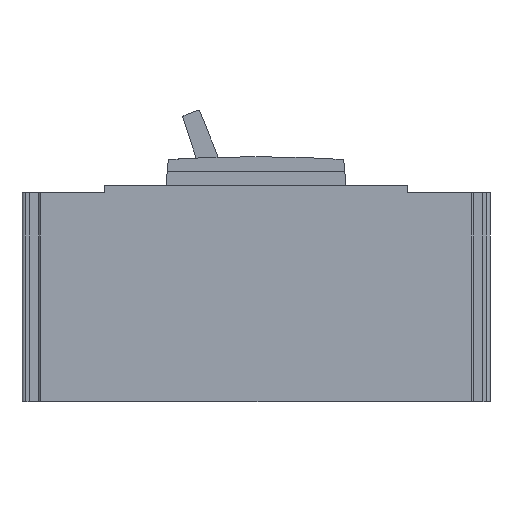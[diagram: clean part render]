
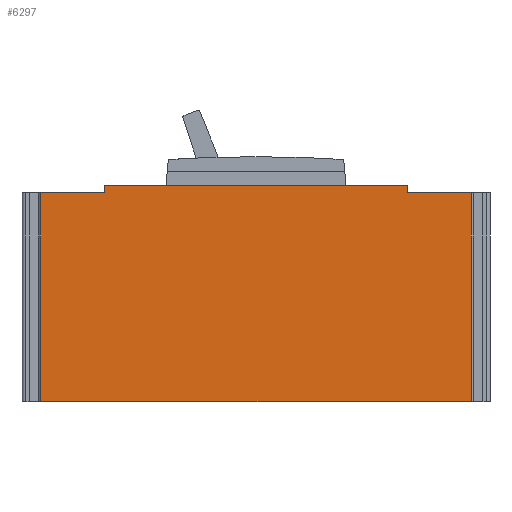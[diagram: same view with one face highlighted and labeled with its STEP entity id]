
A CAD part, left-side view. The second image highlights one B-rep face of the part: STEP entity #6297.
In plain terms, the highlighted planar face has unit normal (-1, 0, 0).
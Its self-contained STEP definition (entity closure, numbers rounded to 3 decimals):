
#181 = DIRECTION ( 'NONE',  ( 0., 0., -1. ) ) ;
#879 = LINE ( 'NONE', #6603, #5187 ) ;
#1034 = LINE ( 'NONE', #2361, #1117 ) ;
#1117 = VECTOR ( 'NONE', #5015, 1000. ) ;
#1172 = ORIENTED_EDGE ( 'NONE', *, *, #2059, .F. ) ;
#1199 = CARTESIAN_POINT ( 'NONE',  ( -37.3, 59.8, 58. ) ) ;
#1326 = EDGE_CURVE ( 'NONE', #1357, #2079, #7013, .T. ) ;
#1357 = VERTEX_POINT ( 'NONE', #1199 ) ;
#1416 = LINE ( 'NONE', #2886, #6997 ) ;
#1489 = CARTESIAN_POINT ( 'NONE',  ( -37.3, 0., 0. ) ) ;
#1613 = CARTESIAN_POINT ( 'NONE',  ( -37.3, -42., 58. ) ) ;
#1623 = VECTOR ( 'NONE', #1723, 1000. ) ;
#1668 = DIRECTION ( 'NONE',  ( 0., -1., 0. ) ) ;
#1675 = CARTESIAN_POINT ( 'NONE',  ( -37.3, -59.8, 58. ) ) ;
#1723 = DIRECTION ( 'NONE',  ( 0., 0., 1. ) ) ;
#1883 = FACE_OUTER_BOUND ( 'NONE', #3726, .T. ) ;
#2059 = EDGE_CURVE ( 'NONE', #6474, #3492, #3995, .T. ) ;
#2079 = VERTEX_POINT ( 'NONE', #3961 ) ;
#2223 = VECTOR ( 'NONE', #2385, 1000. ) ;
#2247 = CARTESIAN_POINT ( 'NONE',  ( -37.3, 42., 60. ) ) ;
#2294 = ORIENTED_EDGE ( 'NONE', *, *, #2553, .F. ) ;
#2301 = CARTESIAN_POINT ( 'NONE',  ( -37.3, -42., 0. ) ) ;
#2361 = CARTESIAN_POINT ( 'NONE',  ( -37.3, 0., 58. ) ) ;
#2385 = DIRECTION ( 'NONE',  ( 0., 0., -1. ) ) ;
#2553 = EDGE_CURVE ( 'NONE', #6840, #5585, #6943, .T. ) ;
#2638 = EDGE_CURVE ( 'NONE', #3492, #5484, #1034, .T. ) ;
#2705 = LINE ( 'NONE', #4407, #5329 ) ;
#2740 = DIRECTION ( 'NONE',  ( 0., -1., 0. ) ) ;
#2776 = ORIENTED_EDGE ( 'NONE', *, *, #6978, .F. ) ;
#2811 = CARTESIAN_POINT ( 'NONE',  ( -37.3, -42., 60. ) ) ;
#2886 = CARTESIAN_POINT ( 'NONE',  ( -37.3, 0., 60. ) ) ;
#3146 = AXIS2_PLACEMENT_3D ( 'NONE', #4188, #6315, #5300 ) ;
#3195 = CARTESIAN_POINT ( 'NONE',  ( -37.3, 42., 58. ) ) ;
#3248 = CARTESIAN_POINT ( 'NONE',  ( -37.3, -59.8, 0. ) ) ;
#3451 = VERTEX_POINT ( 'NONE', #3248 ) ;
#3492 = VERTEX_POINT ( 'NONE', #1613 ) ;
#3726 = EDGE_LOOP ( 'NONE', ( #6867, #6845, #5642, #5438, #6279, #1172, #4535, #2294, #2776 ) ) ;
#3804 = VECTOR ( 'NONE', #6570, 1000. ) ;
#3863 = CARTESIAN_POINT ( 'NONE',  ( -37.3, 59.8, 80.91 ) ) ;
#3961 = CARTESIAN_POINT ( 'NONE',  ( -37.3, 59.8, 0. ) ) ;
#3993 = DIRECTION ( 'NONE',  ( 0., -1., 0. ) ) ;
#3995 = LINE ( 'NONE', #2301, #5185 ) ;
#4188 = CARTESIAN_POINT ( 'NONE',  ( -37.3, 0., 80.91 ) ) ;
#4243 = EDGE_CURVE ( 'NONE', #5585, #6474, #1416, .T. ) ;
#4407 = CARTESIAN_POINT ( 'NONE',  ( -37.3, 0., 58. ) ) ;
#4430 = CARTESIAN_POINT ( 'NONE',  ( -37.3, 42., 0. ) ) ;
#4498 = EDGE_CURVE ( 'NONE', #2079, #6489, #5888, .T. ) ;
#4535 = ORIENTED_EDGE ( 'NONE', *, *, #4243, .F. ) ;
#4666 = LINE ( 'NONE', #5659, #2223 ) ;
#4710 = DIRECTION ( 'NONE',  ( 0., -1., 0. ) ) ;
#5015 = DIRECTION ( 'NONE',  ( 0., -1., 0. ) ) ;
#5185 = VECTOR ( 'NONE', #181, 1000. ) ;
#5187 = VECTOR ( 'NONE', #2740, 1000. ) ;
#5278 = PLANE ( 'NONE',  #3146 ) ;
#5300 = DIRECTION ( 'NONE',  ( 0., 0., -1. ) ) ;
#5329 = VECTOR ( 'NONE', #1668, 1000. ) ;
#5438 = ORIENTED_EDGE ( 'NONE', *, *, #5641, .F. ) ;
#5484 = VERTEX_POINT ( 'NONE', #1675 ) ;
#5510 = EDGE_CURVE ( 'NONE', #6489, #3451, #879, .T. ) ;
#5585 = VERTEX_POINT ( 'NONE', #2247 ) ;
#5641 = EDGE_CURVE ( 'NONE', #5484, #3451, #4666, .T. ) ;
#5642 = ORIENTED_EDGE ( 'NONE', *, *, #5510, .T. ) ;
#5659 = CARTESIAN_POINT ( 'NONE',  ( -37.3, -59.8, 80.91 ) ) ;
#5888 = LINE ( 'NONE', #1489, #5971 ) ;
#5971 = VECTOR ( 'NONE', #4710, 1000. ) ;
#6016 = CARTESIAN_POINT ( 'NONE',  ( -37.3, 42., 0. ) ) ;
#6279 = ORIENTED_EDGE ( 'NONE', *, *, #2638, .F. ) ;
#6297 = ADVANCED_FACE ( 'NONE', ( #1883 ), #5278, .F. ) ;
#6315 = DIRECTION ( 'NONE',  ( 1., 0., 0. ) ) ;
#6474 = VERTEX_POINT ( 'NONE', #2811 ) ;
#6489 = VERTEX_POINT ( 'NONE', #6016 ) ;
#6570 = DIRECTION ( 'NONE',  ( 0., 0., -1. ) ) ;
#6603 = CARTESIAN_POINT ( 'NONE',  ( -37.3, 0., 0. ) ) ;
#6840 = VERTEX_POINT ( 'NONE', #3195 ) ;
#6845 = ORIENTED_EDGE ( 'NONE', *, *, #4498, .T. ) ;
#6867 = ORIENTED_EDGE ( 'NONE', *, *, #1326, .T. ) ;
#6943 = LINE ( 'NONE', #4430, #1623 ) ;
#6978 = EDGE_CURVE ( 'NONE', #1357, #6840, #2705, .T. ) ;
#6997 = VECTOR ( 'NONE', #3993, 1000. ) ;
#7013 = LINE ( 'NONE', #3863, #3804 ) ;
